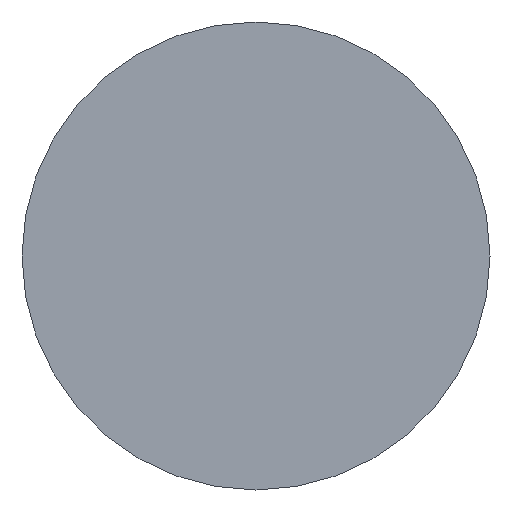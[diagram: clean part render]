
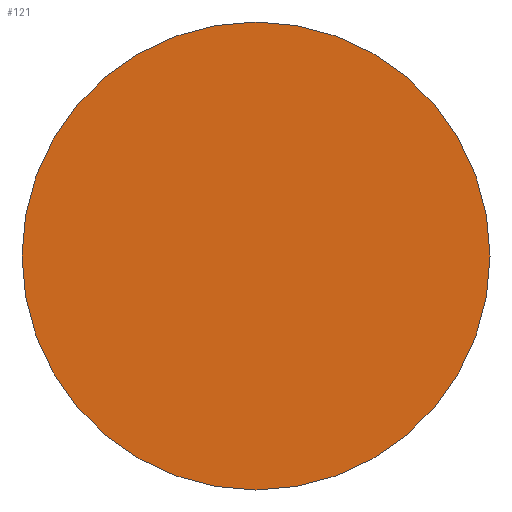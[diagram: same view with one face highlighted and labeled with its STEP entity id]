
A CAD part, front view. The second image highlights one B-rep face of the part: STEP entity #121.
In plain terms, the highlighted planar face has unit normal (0, -1, 0).
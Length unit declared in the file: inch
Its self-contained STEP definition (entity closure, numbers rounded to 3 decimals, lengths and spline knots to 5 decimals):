
#28=FACE_OUTER_BOUND('',#34,.T.);
#34=EDGE_LOOP('',(#112,#113));
#48=CIRCLE('',#154,0.39);
#49=CIRCLE('',#155,0.39);
#61=VERTEX_POINT('',#234);
#62=VERTEX_POINT('',#235);
#77=EDGE_CURVE('',#61,#62,#48,.T.);
#78=EDGE_CURVE('',#62,#61,#49,.T.);
#112=ORIENTED_EDGE('',*,*,#77,.T.);
#113=ORIENTED_EDGE('',*,*,#78,.T.);
#115=PLANE('',#156);
#121=ADVANCED_FACE('',(#28),#115,.T.);
#154=AXIS2_PLACEMENT_3D('',#236,#196,#197);
#155=AXIS2_PLACEMENT_3D('',#237,#198,#199);
#156=AXIS2_PLACEMENT_3D('',#239,#201,#202);
#196=DIRECTION('center_axis',(0.,-1.,0.));
#197=DIRECTION('ref_axis',(1.,0.,0.));
#198=DIRECTION('center_axis',(0.,-1.,0.));
#199=DIRECTION('ref_axis',(1.,0.,0.));
#201=DIRECTION('center_axis',(0.,-1.,0.));
#202=DIRECTION('ref_axis',(0.,0.,-1.));
#234=CARTESIAN_POINT('',(0.39,0.,0.));
#235=CARTESIAN_POINT('',(-0.39,0.,0.));
#236=CARTESIAN_POINT('Origin',(0.,0.,0.));
#237=CARTESIAN_POINT('Origin',(0.,0.,0.));
#239=CARTESIAN_POINT('Origin',(0.,0.,0.));
